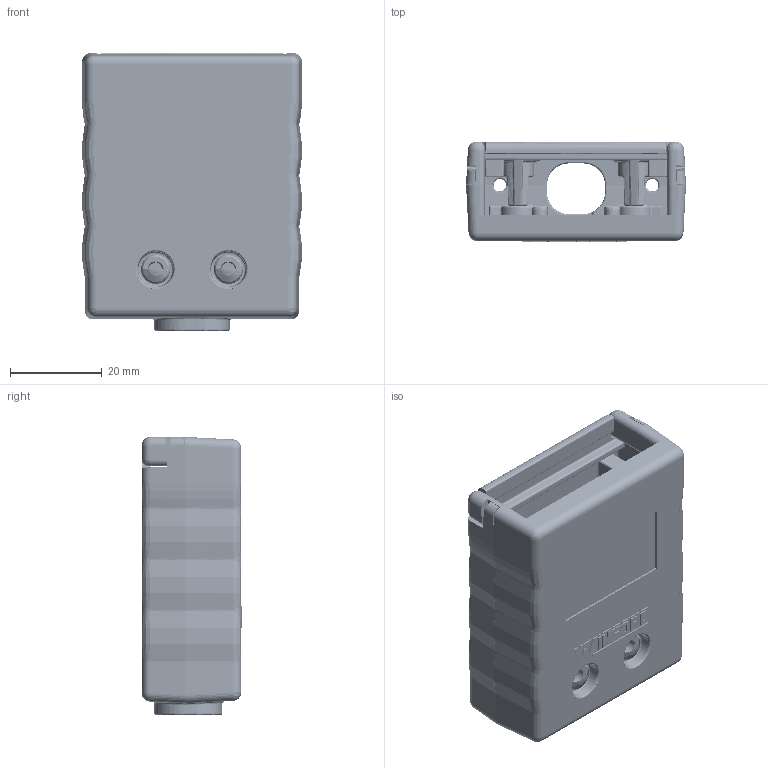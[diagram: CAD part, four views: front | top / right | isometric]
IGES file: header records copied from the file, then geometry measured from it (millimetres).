
Start section: SolidWorks IGES file using analytic representation for surfaces
Global section: file name: W:\end-user\products\ec\ecb15a2\drawings_for_customer\3dmodel\rev_a\render\ecb15a2-n_rev_a.igs; native system: SolidWorks 2018; preprocessor: SolidWorks 2018; author: leviroy; date: 240905.152653; units: inch
Bounding box: 48.07 x 22 x 60.81 mm (x, y, z)
Surface area: 20663.3 mm2 (no closed solid volume)
Topology: 0 solids, 0 shells, 4279 faces, 30766 edges, 30745 vertices
Faces by surface type: bspline 2829, revolution 1450
